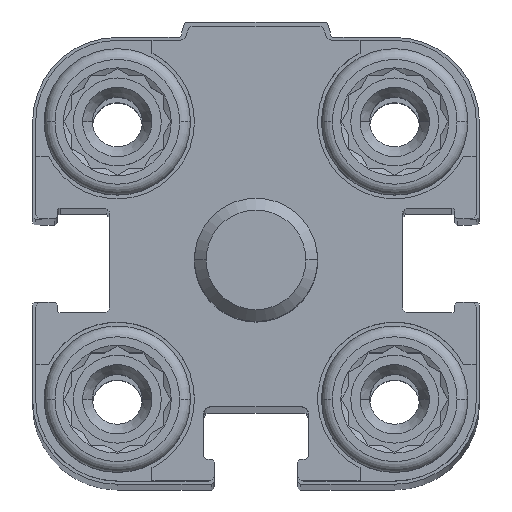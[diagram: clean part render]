
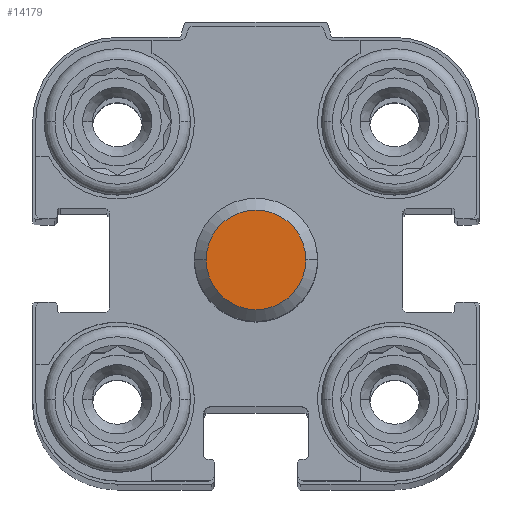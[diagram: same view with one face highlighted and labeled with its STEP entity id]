
A CAD part, top view. The second image highlights one B-rep face of the part: STEP entity #14179.
In plain terms, the highlighted planar face has unit normal (0, 0, 1).
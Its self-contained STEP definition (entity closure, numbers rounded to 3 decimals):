
#379 = DIRECTION ( 'NONE',  ( -1., 0., 0. ) ) ;
#1236 = DIRECTION ( 'NONE',  ( 0., 0., -1. ) ) ;
#1833 = EDGE_LOOP ( 'NONE', ( #5346, #9924 ) ) ;
#2096 = DIRECTION ( 'NONE',  ( 0., 1., 0. ) ) ;
#2866 = CARTESIAN_POINT ( 'NONE',  ( -3.233, 0., 24.5 ) ) ;
#3277 = CARTESIAN_POINT ( 'NONE',  ( 3.233, 0., 24.5 ) ) ;
#4758 = AXIS2_PLACEMENT_3D ( 'NONE', #15371, #16981, #379 ) ;
#4860 = CARTESIAN_POINT ( 'NONE',  ( 0., 0., 24.5 ) ) ;
#5346 = ORIENTED_EDGE ( 'NONE', *, *, #14571, .F. ) ;
#5787 = AXIS2_PLACEMENT_3D ( 'NONE', #9479, #1236, #10666 ) ;
#5972 = VERTEX_POINT ( 'NONE', #3277 ) ;
#6388 = FACE_OUTER_BOUND ( 'NONE', #1833, .T. ) ;
#6732 = EDGE_CURVE ( 'NONE', #5972, #13139, #12505, .T. ) ;
#7770 = AXIS2_PLACEMENT_3D ( 'NONE', #4860, #14477, #2096 ) ;
#7906 = PLANE ( 'NONE',  #7770 ) ;
#9479 = CARTESIAN_POINT ( 'NONE',  ( 0., 0., 24.5 ) ) ;
#9744 = CIRCLE ( 'NONE', #5787, 3.233 ) ;
#9924 = ORIENTED_EDGE ( 'NONE', *, *, #6732, .F. ) ;
#10666 = DIRECTION ( 'NONE',  ( -1., 0., 0. ) ) ;
#12505 = CIRCLE ( 'NONE', #4758, 3.233 ) ;
#13139 = VERTEX_POINT ( 'NONE', #2866 ) ;
#14179 = ADVANCED_FACE ( 'NONE', ( #6388 ), #7906, .F. ) ;
#14477 = DIRECTION ( 'NONE',  ( 0., 0., -1. ) ) ;
#14571 = EDGE_CURVE ( 'NONE', #13139, #5972, #9744, .T. ) ;
#15371 = CARTESIAN_POINT ( 'NONE',  ( 0., 0., 24.5 ) ) ;
#16981 = DIRECTION ( 'NONE',  ( 0., 0., -1. ) ) ;
